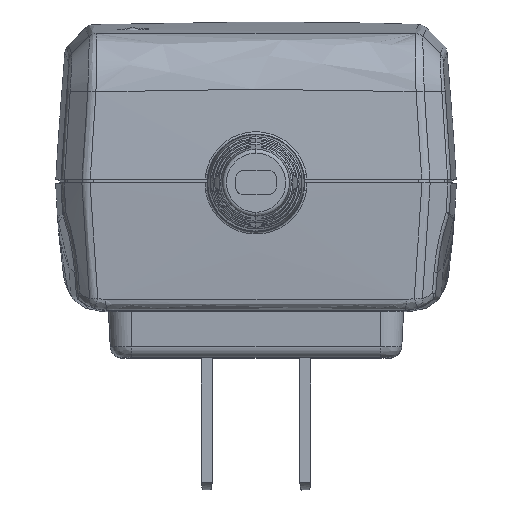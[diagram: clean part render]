
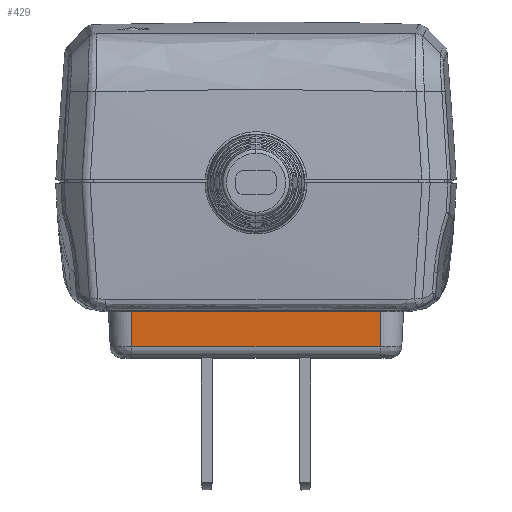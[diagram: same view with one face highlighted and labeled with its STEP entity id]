
A CAD part, top view. The second image highlights one B-rep face of the part: STEP entity #429.
In plain terms, the highlighted free-form (B-spline) face has degree [1, 1] with [2, 2] control points.
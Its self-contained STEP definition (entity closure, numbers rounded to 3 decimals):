
#429=ADVANCED_FACE('',(#982),#18627,.T.);
#982=FACE_OUTER_BOUND('',#1560,.T.);
#1560=EDGE_LOOP('',(#3520,#3521,#3522,#3523));
#3520=ORIENTED_EDGE('',*,*,#12962,.T.);
#3521=ORIENTED_EDGE('',*,*,#12963,.T.);
#3522=ORIENTED_EDGE('',*,*,#12959,.F.);
#3523=ORIENTED_EDGE('',*,*,#12823,.F.);
#6469=PCURVE('',#18580,#9276);
#6729=PCURVE('',#18254,#9536);
#6733=PCURVE('',#18627,#9540);
#6734=PCURVE('',#18627,#9541);
#6735=PCURVE('',#18627,#9542);
#6736=PCURVE('',#18627,#9543);
#6739=PCURVE('',#18255,#9546);
#6828=PCURVE('',#18265,#9635);
#9276=DEFINITIONAL_REPRESENTATION('',(#15520),#117424);
#9536=DEFINITIONAL_REPRESENTATION('',(#15898),#117424);
#9540=DEFINITIONAL_REPRESENTATION('',(#15904),#117424);
#9541=DEFINITIONAL_REPRESENTATION('',(#15906),#117424);
#9542=DEFINITIONAL_REPRESENTATION('',(#15907),#117424);
#9543=DEFINITIONAL_REPRESENTATION('',(#15908),#117424);
#9546=DEFINITIONAL_REPRESENTATION('',(#15912),#117424);
#9635=DEFINITIONAL_REPRESENTATION('',(#16022),#117424);
#11397=SURFACE_CURVE('',#15519,(#6469,#6736),.PCURVE_S1.);
#11533=SURFACE_CURVE('',#15897,(#6729,#6735),.PCURVE_S1.);
#11536=SURFACE_CURVE('',#15903,(#6733,#6739),.PCURVE_S1.);
#11537=SURFACE_CURVE('',#15905,(#6734,#6828),.PCURVE_S1.);
#12823=EDGE_CURVE('',#17814,#17813,#11397,.T.);
#12959=EDGE_CURVE('',#17813,#17901,#11533,.T.);
#12962=EDGE_CURVE('',#17814,#17903,#11536,.T.);
#12963=EDGE_CURVE('',#17903,#17901,#11537,.T.);
#15519=B_SPLINE_CURVE_WITH_KNOTS('',1,(#77396,#77397),.UNSPECIFIED.,.F.,
 .F.,(2,2),(-32.,0.),.UNSPECIFIED.);
#15520=B_SPLINE_CURVE_WITH_KNOTS('',1,(#77398,#77399),.UNSPECIFIED.,.F.,
 .F.,(2,2),(-32.,0.),.UNSPECIFIED.);
#15897=B_SPLINE_CURVE_WITH_KNOTS('',1,(#91422,#91423),.UNSPECIFIED.,.F.,
 .F.,(2,2),(-4.585,0.),.UNSPECIFIED.);
#15898=B_SPLINE_CURVE_WITH_KNOTS('',1,(#91424,#91425),.UNSPECIFIED.,.F.,
 .F.,(2,2),(-4.585,0.),.UNSPECIFIED.);
#15903=B_SPLINE_CURVE_WITH_KNOTS('',1,(#91437,#91438),.UNSPECIFIED.,.F.,
 .F.,(2,2),(-4.585,0.),.UNSPECIFIED.);
#15904=B_SPLINE_CURVE_WITH_KNOTS('',1,(#91439,#91440),.UNSPECIFIED.,.F.,
 .F.,(2,2),(-4.585,0.),.UNSPECIFIED.);
#15905=B_SPLINE_CURVE_WITH_KNOTS('',1,(#91441,#91442),.UNSPECIFIED.,.F.,
 .F.,(2,2),(0.,32.),.UNSPECIFIED.);
#15906=B_SPLINE_CURVE_WITH_KNOTS('',1,(#91443,#91444),.UNSPECIFIED.,.F.,
 .F.,(2,2),(0.,32.),.UNSPECIFIED.);
#15907=B_SPLINE_CURVE_WITH_KNOTS('',1,(#91445,#91446),.UNSPECIFIED.,.F.,
 .F.,(2,2),(-4.585,0.),.UNSPECIFIED.);
#15908=B_SPLINE_CURVE_WITH_KNOTS('',1,(#91447,#91448),.UNSPECIFIED.,.F.,
 .F.,(2,2),(-32.,0.),.UNSPECIFIED.);
#15912=B_SPLINE_CURVE_WITH_KNOTS('',1,(#91458,#91459),.UNSPECIFIED.,.F.,
 .F.,(2,2),(-4.585,0.),.UNSPECIFIED.);
#16022=B_SPLINE_CURVE_WITH_KNOTS('',1,(#91780,#91781),.UNSPECIFIED.,.F.,
 .F.,(2,2),(0.,32.),.UNSPECIFIED.);
#17813=VERTEX_POINT('',#76901);
#17814=VERTEX_POINT('',#76902);
#17901=VERTEX_POINT('',#76989);
#17903=VERTEX_POINT('',#76991);
#18254=(
BOUNDED_SURFACE()
B_SPLINE_SURFACE(2,1,((#76032,#76033),(#76034,#76035),(#76036,#76037),(#76038,
#76039),(#76040,#76041)),.UNSPECIFIED.,.F.,.F.,.F.)
B_SPLINE_SURFACE_WITH_KNOTS((3,2,3),(2,2),(3.063,3.927,
4.791),(-4.814,0.229),.UNSPECIFIED.)
GEOMETRIC_REPRESENTATION_ITEM()
RATIONAL_B_SPLINE_SURFACE(((1.,1.),(0.908,0.908),
(1.,1.),(0.908,0.908),(1.,1.)))
REPRESENTATION_ITEM('')
SURFACE()
);
#18255=(
BOUNDED_SURFACE()
B_SPLINE_SURFACE(2,1,((#76046,#76047),(#76048,#76049),(#76050,#76051),(#76052,
#76053),(#76054,#76055)),.UNSPECIFIED.,.F.,.F.,.F.)
B_SPLINE_SURFACE_WITH_KNOTS((3,2,3),(2,2),(1.492,2.356,
3.22),(-4.814,0.229),.UNSPECIFIED.)
GEOMETRIC_REPRESENTATION_ITEM()
RATIONAL_B_SPLINE_SURFACE(((1.,1.),(0.908,0.908),
(1.,1.),(0.908,0.908),(1.,1.)))
REPRESENTATION_ITEM('')
SURFACE()
);
#18265=(
BOUNDED_SURFACE()
B_SPLINE_SURFACE(2,1,((#76241,#76242),(#76243,#76244),(#76245,#76246),(#76247,
#76248),(#76249,#76250)),.UNSPECIFIED.,.F.,.F.,.F.)
B_SPLINE_SURFACE_WITH_KNOTS((3,2,3),(2,2),(4.636,5.472,
6.307),(-1.6,33.6),.UNSPECIFIED.)
GEOMETRIC_REPRESENTATION_ITEM()
RATIONAL_B_SPLINE_SURFACE(((1.,1.),(0.914,0.914),
(1.,1.),(0.914,0.914),(1.,1.)))
REPRESENTATION_ITEM('')
SURFACE()
);
#18580=B_SPLINE_SURFACE_WITH_KNOTS('',1,1,((#70820,#70821),(#70822,#70823)),
 .UNSPECIFIED.,.F.,.F.,.F.,(2,2),(2,2),(-22.015,22.015),
(-52.441,52.441),.UNSPECIFIED.);
#18627=B_SPLINE_SURFACE_WITH_KNOTS('',1,1,((#76042,#76043),(#76044,#76045)),
 .UNSPECIFIED.,.F.,.F.,.F.,(2,2),(2,2),(-0.229,4.814),
(-33.6,1.6),.UNSPECIFIED.);
#70820=CARTESIAN_POINT('',(-16.896,-1.021,-52.441));
#70821=CARTESIAN_POINT('',(-16.896,-1.021,52.441));
#70822=CARTESIAN_POINT('',(27.134,-1.021,-52.441));
#70823=CARTESIAN_POINT('',(27.134,-1.021,52.441));
#76032=CARTESIAN_POINT('',(20.904,-5.829,-16.51));
#76033=CARTESIAN_POINT('',(20.883,-0.792,-16.247));
#76034=CARTESIAN_POINT('',(22.167,-5.829,-16.411));
#76035=CARTESIAN_POINT('',(22.267,-0.792,-16.138));
#76036=CARTESIAN_POINT('',(23.062,-5.829,-17.307));
#76037=CARTESIAN_POINT('',(23.249,-0.792,-17.12));
#76038=CARTESIAN_POINT('',(23.958,-5.829,-18.203));
#76039=CARTESIAN_POINT('',(24.231,-0.792,-18.102));
#76040=CARTESIAN_POINT('',(23.859,-5.829,-19.466));
#76041=CARTESIAN_POINT('',(24.122,-0.792,-19.486));
#76042=CARTESIAN_POINT('',(-12.481,-0.792,-16.238));
#76043=CARTESIAN_POINT('',(22.719,-0.792,-16.238));
#76044=CARTESIAN_POINT('',(-12.481,-5.829,-16.502));
#76045=CARTESIAN_POINT('',(22.719,-5.829,-16.502));
#76046=CARTESIAN_POINT('',(-13.62,-5.829,-19.466));
#76047=CARTESIAN_POINT('',(-13.883,-0.792,-19.486));
#76048=CARTESIAN_POINT('',(-13.72,-5.829,-18.203));
#76049=CARTESIAN_POINT('',(-13.992,-0.792,-18.102));
#76050=CARTESIAN_POINT('',(-12.824,-5.829,-17.307));
#76051=CARTESIAN_POINT('',(-13.01,-0.792,-17.12));
#76052=CARTESIAN_POINT('',(-11.928,-5.829,-16.411));
#76053=CARTESIAN_POINT('',(-12.029,-0.792,-16.138));
#76054=CARTESIAN_POINT('',(-10.665,-5.829,-16.51));
#76055=CARTESIAN_POINT('',(-10.644,-0.792,-16.247));
#76241=CARTESIAN_POINT('',(22.719,-7.017,-18.102));
#76242=CARTESIAN_POINT('',(-12.481,-7.017,-18.102));
#76243=CARTESIAN_POINT('',(22.719,-7.067,-17.438));
#76244=CARTESIAN_POINT('',(-12.481,-7.067,-17.438));
#76245=CARTESIAN_POINT('',(22.719,-6.609,-16.955));
#76246=CARTESIAN_POINT('',(-12.481,-6.609,-16.955));
#76247=CARTESIAN_POINT('',(22.719,-6.151,-16.473));
#76248=CARTESIAN_POINT('',(-12.481,-6.151,-16.473));
#76249=CARTESIAN_POINT('',(22.719,-5.486,-16.488));
#76250=CARTESIAN_POINT('',(-12.481,-5.486,-16.488));
#76901=CARTESIAN_POINT('',(21.119,-1.021,-16.25));
#76902=CARTESIAN_POINT('',(-10.881,-1.021,-16.25));
#76989=CARTESIAN_POINT('',(21.119,-5.6,-16.49));
#76991=CARTESIAN_POINT('',(-10.881,-5.6,-16.49));
#77396=CARTESIAN_POINT('',(-10.881,-1.021,-16.25));
#77397=CARTESIAN_POINT('',(21.119,-1.021,-16.25));
#77398=CARTESIAN_POINT('',(-16.,-16.25));
#77399=CARTESIAN_POINT('',(16.,-16.25));
#91422=CARTESIAN_POINT('',(21.119,-1.021,-16.25));
#91423=CARTESIAN_POINT('',(21.119,-5.6,-16.49));
#91424=CARTESIAN_POINT('',(3.143,0.));
#91425=CARTESIAN_POINT('',(3.143,-4.585));
#91437=CARTESIAN_POINT('',(-10.881,-1.021,-16.25));
#91438=CARTESIAN_POINT('',(-10.881,-5.6,-16.49));
#91439=CARTESIAN_POINT('',(0.,-32.));
#91440=CARTESIAN_POINT('',(4.585,-32.));
#91441=CARTESIAN_POINT('',(-10.881,-5.6,-16.49));
#91442=CARTESIAN_POINT('',(21.119,-5.6,-16.49));
#91443=CARTESIAN_POINT('',(4.585,-32.));
#91444=CARTESIAN_POINT('',(4.585,0.));
#91445=CARTESIAN_POINT('',(0.,0.));
#91446=CARTESIAN_POINT('',(4.585,0.));
#91447=CARTESIAN_POINT('',(0.,-32.));
#91448=CARTESIAN_POINT('',(0.,0.));
#91458=CARTESIAN_POINT('',(3.14,0.));
#91459=CARTESIAN_POINT('',(3.14,-4.585));
#91780=CARTESIAN_POINT('',(6.229,32.));
#91781=CARTESIAN_POINT('',(6.229,0.));
#117424=(
GEOMETRIC_REPRESENTATION_CONTEXT(2)
PARAMETRIC_REPRESENTATION_CONTEXT()
REPRESENTATION_CONTEXT('pspace','')
);
